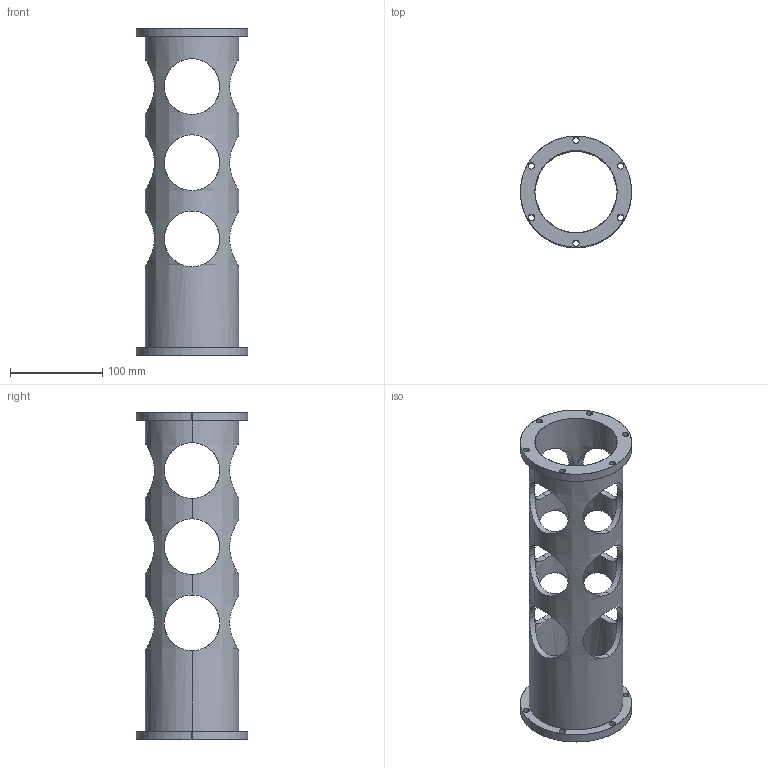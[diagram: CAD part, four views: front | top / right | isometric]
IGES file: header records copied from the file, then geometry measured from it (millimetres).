
Start section: SolidWorks IGES FILE using analytic representation for surfaces
Global section: file name: G:\Work In Progress\900252_ROV Marker Tool\900252-Release_Drawings\Hammer Cylinder.IGS; native system: SolidWorks 2003 by SolidWorks Corporation; preprocessor: Version 5.3; author: mob; date: 030129.110229; units: inch
Bounding box: 120.65 x 120.65 x 355.6 mm (x, y, z)
Surface area: 176100.9 mm2 (no closed solid volume)
Topology: 0 solids, 0 shells, 60 faces, 4627 edges, 4627 vertices
Faces by surface type: revolution 56, bspline 4
